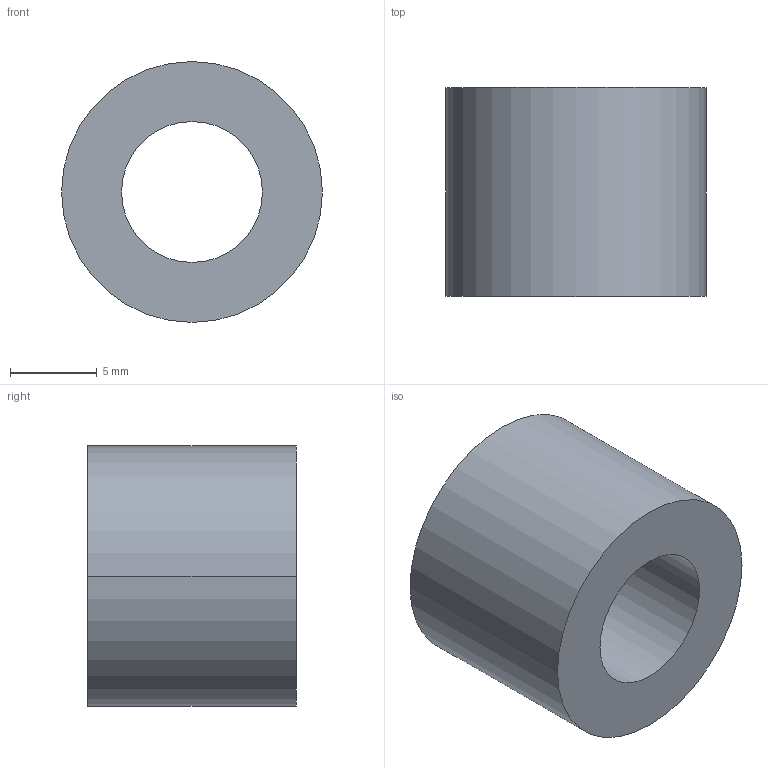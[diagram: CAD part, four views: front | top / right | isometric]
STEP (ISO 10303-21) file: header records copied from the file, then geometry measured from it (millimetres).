
FILE_DESCRIPTION (( 'STEP AP203' ), '1' );
FILE_NAME ('30800.WPP15E8.1.step', '2019-01-23T22:29:17', ( '' ), ( '' ), 'SwSTEP 2.0', 'SolidWorks 2017', '' );
FILE_SCHEMA (( 'CONFIG_CONTROL_DESIGN' ));
Length unit declared in the file: millimetre
Products named in the file (1): 30800.WPP15E8.1
Bounding box: 15 x 12 x 15 mm (x, y, z)
Volume: 1478 mm3; surface area: 1101.2 mm2
Topology: 1 solids, 1 shells, 8 faces, 16 edges, 10 vertices
Faces by surface type: cylinder 4, torus 2, plane 2
Entity records: 297 total; most frequent: DIRECTION 46, CARTESIAN_POINT 35, ORIENTED_EDGE 32, AXIS2_PLACEMENT_3D 21, EDGE_CURVE 16, CIRCLE 12, EDGE_LOOP 10, VERTEX_POINT 10
